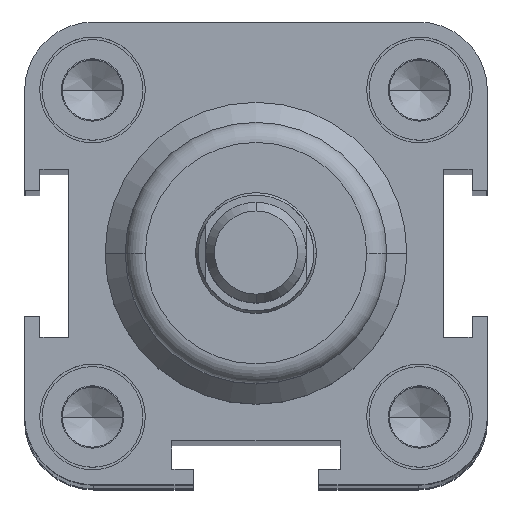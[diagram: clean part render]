
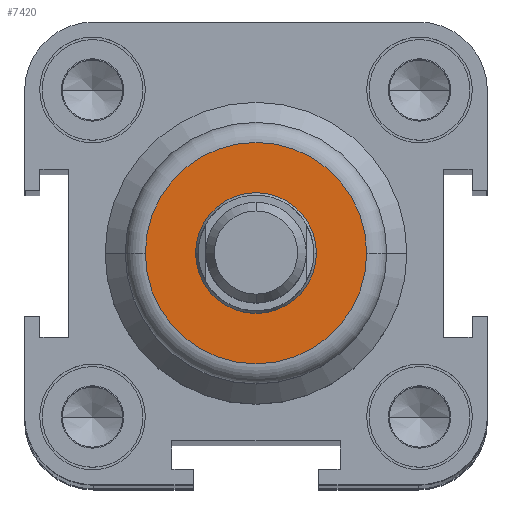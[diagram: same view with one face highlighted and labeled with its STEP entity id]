
A CAD part, top view. The second image highlights one B-rep face of the part: STEP entity #7420.
In plain terms, the highlighted planar face has unit normal (0, 0, 1).
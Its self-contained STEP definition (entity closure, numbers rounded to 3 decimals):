
#1472=CARTESIAN_POINT('',(-11.,0.0,163.0));
#1473=VERTEX_POINT('',#1472);
#1481=CARTESIAN_POINT('',(11.,0.,163.0));
#1482=VERTEX_POINT('',#1481);
#1483=CARTESIAN_POINT('',(0.0,0.0,163.0));
#1484=DIRECTION('',(0.0,0.0,-1.0));
#1485=DIRECTION('',(-1.0,0.0,0.0));
#1486=AXIS2_PLACEMENT_3D('',#1483,#1484,#1485);
#1487=CIRCLE('',#1486,11.);
#1488=EDGE_CURVE('',#1473,#1482,#1487,.T.);
#1593=CARTESIAN_POINT('',(6.,0.0,163.0));
#1594=VERTEX_POINT('',#1593);
#1610=CARTESIAN_POINT('',(-6.,0.,163.0));
#1611=VERTEX_POINT('',#1610);
#1618=CARTESIAN_POINT('',(0.0,0.0,163.0));
#1619=DIRECTION('',(0.0,0.0,-1.0));
#1620=DIRECTION('',(1.0,0.0,0.0));
#1621=AXIS2_PLACEMENT_3D('',#1618,#1619,#1620);
#1622=CIRCLE('',#1621,6.);
#1623=EDGE_CURVE('',#1594,#1611,#1622,.T.);
#7347=CARTESIAN_POINT('',(0.0,0.0,163.0));
#7348=DIRECTION('',(0.0,0.0,-1.0));
#7349=DIRECTION('',(1.0,0.0,0.0));
#7350=AXIS2_PLACEMENT_3D('',#7347,#7348,#7349);
#7351=CIRCLE('',#7350,6.);
#7352=EDGE_CURVE('',#1611,#1594,#7351,.T.);
#7401=CARTESIAN_POINT('',(-5.5,0.0,163.0));
#7402=DIRECTION('',(0.0,0.0,1.0));
#7403=DIRECTION('',(1.0,0.0,0.0));
#7404=AXIS2_PLACEMENT_3D('',#7401,#7402,#7403);
#7405=PLANE('',#7404);
#7406=ORIENTED_EDGE('',*,*,#1488,.F.);
#7407=CARTESIAN_POINT('',(0.0,0.0,163.0));
#7408=DIRECTION('',(0.0,0.0,-1.0));
#7409=DIRECTION('',(-1.0,0.0,0.0));
#7410=AXIS2_PLACEMENT_3D('',#7407,#7408,#7409);
#7411=CIRCLE('',#7410,11.);
#7412=EDGE_CURVE('',#1482,#1473,#7411,.T.);
#7413=ORIENTED_EDGE('',*,*,#7412,.F.);
#7414=EDGE_LOOP('',(#7406,#7413));
#7415=FACE_OUTER_BOUND('',#7414,.T.);
#7416=ORIENTED_EDGE('',*,*,#1623,.T.);
#7417=ORIENTED_EDGE('',*,*,#7352,.T.);
#7418=EDGE_LOOP('',(#7416,#7417));
#7419=FACE_BOUND('',#7418,.T.);
#7420=ADVANCED_FACE('',(#7415,#7419),#7405,.T.);
